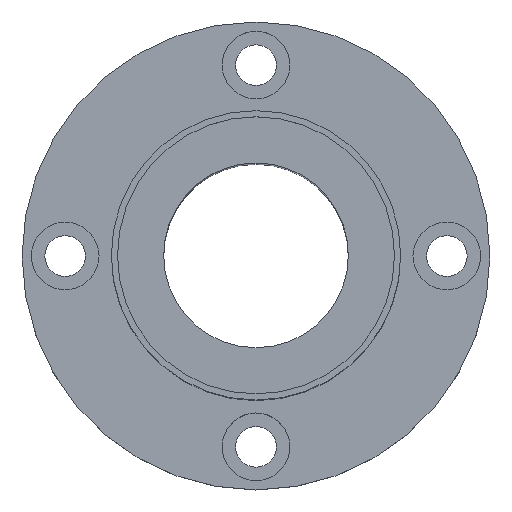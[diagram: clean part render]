
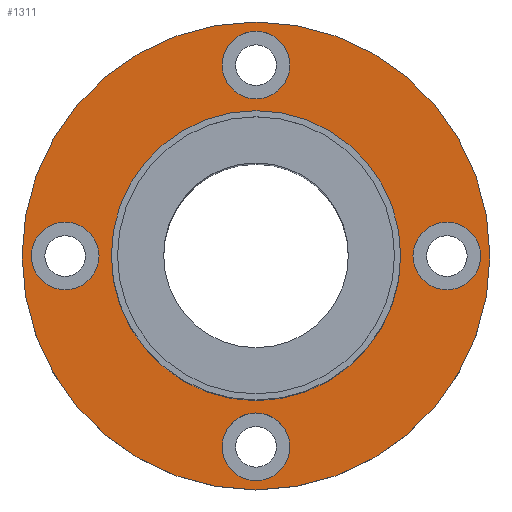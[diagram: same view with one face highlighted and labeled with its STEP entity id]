
A CAD part, top view. The second image highlights one B-rep face of the part: STEP entity #1311.
In plain terms, the highlighted planar face has unit normal (0, 0, 1).
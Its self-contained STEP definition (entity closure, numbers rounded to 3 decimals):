
#217=CARTESIAN_POINT('',(-18.36,-1.402,66.5));
#218=VERTEX_POINT('',#217);
#227=CARTESIAN_POINT('',(28.64,-1.402,66.5));
#228=VERTEX_POINT('',#227);
#229=CARTESIAN_POINT('',(5.14,-1.402,66.5));
#230=DIRECTION('',(0.0,0.0,1.0));
#231=DIRECTION('',(-1.0,0.0,0.0));
#232=AXIS2_PLACEMENT_3D('',#229,#230,#231);
#233=CIRCLE('',#232,23.5);
#234=EDGE_CURVE('',#218,#228,#233,.T.);
#261=CARTESIAN_POINT('',(43.14,-1.402,66.5));
#262=VERTEX_POINT('',#261);
#278=CARTESIAN_POINT('',(-32.86,-1.402,66.5));
#279=VERTEX_POINT('',#278);
#286=CARTESIAN_POINT('',(5.14,-1.402,66.5));
#287=DIRECTION('',(0.0,0.0,-1.0));
#288=DIRECTION('',(1.0,0.0,0.0));
#289=AXIS2_PLACEMENT_3D('',#286,#287,#288);
#290=CIRCLE('',#289,38.0);
#291=EDGE_CURVE('',#279,#262,#290,.T.);
#387=CARTESIAN_POINT('',(-20.36,-1.402,66.5));
#388=VERTEX_POINT('',#387);
#404=CARTESIAN_POINT('',(-31.36,-1.402,66.5));
#405=VERTEX_POINT('',#404);
#412=CARTESIAN_POINT('',(-25.86,-1.402,66.5));
#413=DIRECTION('',(0.0,0.0,-1.0));
#414=DIRECTION('',(1.0,0.0,0.0));
#415=AXIS2_PLACEMENT_3D('',#412,#413,#414);
#416=CIRCLE('',#415,5.5);
#417=EDGE_CURVE('',#388,#405,#416,.T.);
#513=CARTESIAN_POINT('',(41.64,-1.402,66.5));
#514=VERTEX_POINT('',#513);
#530=CARTESIAN_POINT('',(30.64,-1.402,66.5));
#531=VERTEX_POINT('',#530);
#538=CARTESIAN_POINT('',(36.14,-1.402,66.5));
#539=DIRECTION('',(0.0,0.0,-1.0));
#540=DIRECTION('',(1.0,0.0,0.0));
#541=AXIS2_PLACEMENT_3D('',#538,#539,#540);
#542=CIRCLE('',#541,5.5);
#543=EDGE_CURVE('',#514,#531,#542,.T.);
#639=CARTESIAN_POINT('',(10.64,-32.402,66.5));
#640=VERTEX_POINT('',#639);
#656=CARTESIAN_POINT('',(-0.36,-32.402,66.5));
#657=VERTEX_POINT('',#656);
#664=CARTESIAN_POINT('',(5.14,-32.402,66.5));
#665=DIRECTION('',(0.0,0.0,-1.0));
#666=DIRECTION('',(1.0,0.0,0.0));
#667=AXIS2_PLACEMENT_3D('',#664,#665,#666);
#668=CIRCLE('',#667,5.5);
#669=EDGE_CURVE('',#640,#657,#668,.T.);
#765=CARTESIAN_POINT('',(10.64,29.598,66.5));
#766=VERTEX_POINT('',#765);
#782=CARTESIAN_POINT('',(-0.36,29.598,66.5));
#783=VERTEX_POINT('',#782);
#790=CARTESIAN_POINT('',(5.14,29.598,66.5));
#791=DIRECTION('',(0.0,0.0,-1.0));
#792=DIRECTION('',(1.0,0.0,0.0));
#793=AXIS2_PLACEMENT_3D('',#790,#791,#792);
#794=CIRCLE('',#793,5.5);
#795=EDGE_CURVE('',#766,#783,#794,.T.);
#853=CARTESIAN_POINT('',(5.14,29.598,66.5));
#854=DIRECTION('',(0.0,0.0,-1.0));
#855=DIRECTION('',(1.0,0.0,0.0));
#856=AXIS2_PLACEMENT_3D('',#853,#854,#855);
#857=CIRCLE('',#856,5.5);
#858=EDGE_CURVE('',#783,#766,#857,.T.);
#957=CARTESIAN_POINT('',(5.14,-32.402,66.5));
#958=DIRECTION('',(0.0,0.0,-1.0));
#959=DIRECTION('',(1.0,0.0,0.0));
#960=AXIS2_PLACEMENT_3D('',#957,#958,#959);
#961=CIRCLE('',#960,5.5);
#962=EDGE_CURVE('',#657,#640,#961,.T.);
#1061=CARTESIAN_POINT('',(36.14,-1.402,66.5));
#1062=DIRECTION('',(0.0,0.0,-1.0));
#1063=DIRECTION('',(1.0,0.0,0.0));
#1064=AXIS2_PLACEMENT_3D('',#1061,#1062,#1063);
#1065=CIRCLE('',#1064,5.5);
#1066=EDGE_CURVE('',#531,#514,#1065,.T.);
#1165=CARTESIAN_POINT('',(-25.86,-1.402,66.5));
#1166=DIRECTION('',(0.0,0.0,-1.0));
#1167=DIRECTION('',(1.0,0.0,0.0));
#1168=AXIS2_PLACEMENT_3D('',#1165,#1166,#1167);
#1169=CIRCLE('',#1168,5.5);
#1170=EDGE_CURVE('',#405,#388,#1169,.T.);
#1222=CARTESIAN_POINT('',(5.14,-1.402,66.5));
#1223=DIRECTION('',(0.0,0.0,-1.0));
#1224=DIRECTION('',(1.0,0.0,0.0));
#1225=AXIS2_PLACEMENT_3D('',#1222,#1223,#1224);
#1226=CIRCLE('',#1225,38.0);
#1227=EDGE_CURVE('',#262,#279,#1226,.T.);
#1276=CARTESIAN_POINT('',(5.14,-1.402,66.5));
#1277=DIRECTION('',(0.0,0.0,1.0));
#1278=DIRECTION('',(1.0,0.0,0.0));
#1279=AXIS2_PLACEMENT_3D('',#1276,#1277,#1278);
#1280=PLANE('',#1279);
#1281=ORIENTED_EDGE('',*,*,#291,.F.);
#1282=ORIENTED_EDGE('',*,*,#1227,.F.);
#1283=EDGE_LOOP('',(#1281,#1282));
#1284=FACE_OUTER_BOUND('',#1283,.T.);
#1285=ORIENTED_EDGE('',*,*,#795,.T.);
#1286=ORIENTED_EDGE('',*,*,#858,.T.);
#1287=EDGE_LOOP('',(#1285,#1286));
#1288=FACE_BOUND('',#1287,.T.);
#1289=ORIENTED_EDGE('',*,*,#669,.T.);
#1290=ORIENTED_EDGE('',*,*,#962,.T.);
#1291=EDGE_LOOP('',(#1289,#1290));
#1292=FACE_BOUND('',#1291,.T.);
#1293=ORIENTED_EDGE('',*,*,#543,.T.);
#1294=ORIENTED_EDGE('',*,*,#1066,.T.);
#1295=EDGE_LOOP('',(#1293,#1294));
#1296=FACE_BOUND('',#1295,.T.);
#1297=ORIENTED_EDGE('',*,*,#417,.T.);
#1298=ORIENTED_EDGE('',*,*,#1170,.T.);
#1299=EDGE_LOOP('',(#1297,#1298));
#1300=FACE_BOUND('',#1299,.T.);
#1301=ORIENTED_EDGE('',*,*,#234,.F.);
#1302=CARTESIAN_POINT('',(5.14,-1.402,66.5));
#1303=DIRECTION('',(0.0,0.0,1.0));
#1304=DIRECTION('',(-1.0,0.0,0.0));
#1305=AXIS2_PLACEMENT_3D('',#1302,#1303,#1304);
#1306=CIRCLE('',#1305,23.5);
#1307=EDGE_CURVE('',#228,#218,#1306,.T.);
#1308=ORIENTED_EDGE('',*,*,#1307,.F.);
#1309=EDGE_LOOP('',(#1301,#1308));
#1310=FACE_BOUND('',#1309,.T.);
#1311=ADVANCED_FACE('',(#1284,#1288,#1292,#1296,#1300,#1310),#1280,.T.);
